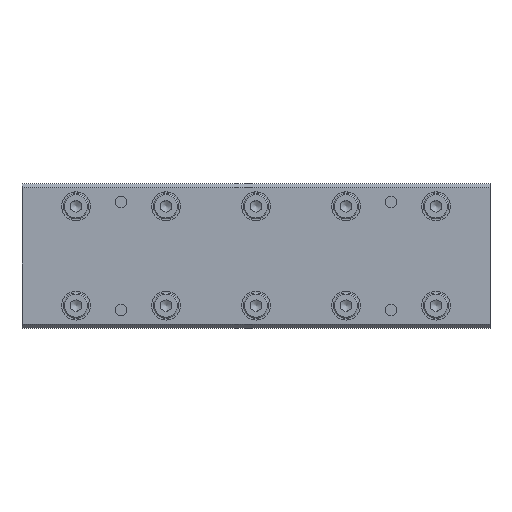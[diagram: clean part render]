
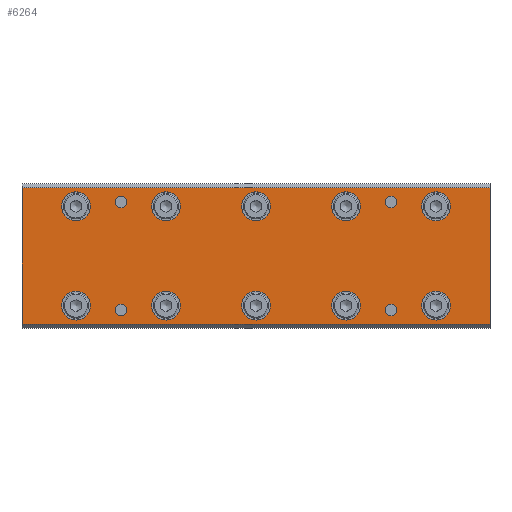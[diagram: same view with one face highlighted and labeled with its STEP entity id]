
A CAD part, top view. The second image highlights one B-rep face of the part: STEP entity #6264.
In plain terms, the highlighted planar face has unit normal (0, 0, 1).
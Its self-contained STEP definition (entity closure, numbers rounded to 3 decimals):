
#5098=CARTESIAN_POINT('',(130.0,19.0,10.));
#5099=VERTEX_POINT('',#5098);
#5106=CARTESIAN_POINT('',(130.0,-19.0,10.));
#5107=VERTEX_POINT('',#5106);
#5108=CARTESIAN_POINT('',(130.0,-19.0,10.));
#5109=DIRECTION('',(0.0,1.0,0.0));
#5110=VECTOR('',#5109,38.0);
#5111=LINE('',#5108,#5110);
#5112=EDGE_CURVE('',#5107,#5099,#5111,.T.);
#5251=CARTESIAN_POINT('',(19.,-13.8,10.));
#5252=VERTEX_POINT('',#5251);
#5253=CARTESIAN_POINT('',(15.,-13.8,10.));
#5254=DIRECTION('',(0.0,0.0,-1.0));
#5255=DIRECTION('',(1.0,0.0,0.0));
#5256=AXIS2_PLACEMENT_3D('',#5253,#5254,#5255);
#5257=CIRCLE('',#5256,4.0);
#5258=EDGE_CURVE('',#5252,#5252,#5257,.T.);
#5320=CARTESIAN_POINT('',(19.0,13.8,10.));
#5321=VERTEX_POINT('',#5320);
#5322=CARTESIAN_POINT('',(15.0,13.8,10.));
#5323=DIRECTION('',(0.0,0.0,-1.0));
#5324=DIRECTION('',(1.0,0.0,0.0));
#5325=AXIS2_PLACEMENT_3D('',#5322,#5323,#5324);
#5326=CIRCLE('',#5325,4.0);
#5327=EDGE_CURVE('',#5321,#5321,#5326,.T.);
#5401=CARTESIAN_POINT('',(44.0,-13.8,10.));
#5402=VERTEX_POINT('',#5401);
#5403=CARTESIAN_POINT('',(40.,-13.8,10.));
#5404=DIRECTION('',(0.0,0.0,-1.0));
#5405=DIRECTION('',(1.0,0.0,0.0));
#5406=AXIS2_PLACEMENT_3D('',#5403,#5404,#5405);
#5407=CIRCLE('',#5406,4.0);
#5408=EDGE_CURVE('',#5402,#5402,#5407,.T.);
#5442=CARTESIAN_POINT('',(44.0,13.8,10.));
#5443=VERTEX_POINT('',#5442);
#5444=CARTESIAN_POINT('',(40.0,13.8,10.));
#5445=DIRECTION('',(0.0,0.0,-1.0));
#5446=DIRECTION('',(1.0,0.0,0.0));
#5447=AXIS2_PLACEMENT_3D('',#5444,#5445,#5446);
#5448=CIRCLE('',#5447,4.0);
#5449=EDGE_CURVE('',#5443,#5443,#5448,.T.);
#5523=CARTESIAN_POINT('',(69.0,-13.8,10.));
#5524=VERTEX_POINT('',#5523);
#5525=CARTESIAN_POINT('',(65.,-13.8,10.));
#5526=DIRECTION('',(0.0,0.0,-1.0));
#5527=DIRECTION('',(1.0,0.0,0.0));
#5528=AXIS2_PLACEMENT_3D('',#5525,#5526,#5527);
#5529=CIRCLE('',#5528,4.0);
#5530=EDGE_CURVE('',#5524,#5524,#5529,.T.);
#5564=CARTESIAN_POINT('',(69.0,13.8,10.));
#5565=VERTEX_POINT('',#5564);
#5566=CARTESIAN_POINT('',(65.0,13.8,10.));
#5567=DIRECTION('',(0.0,0.0,-1.0));
#5568=DIRECTION('',(1.0,0.0,0.0));
#5569=AXIS2_PLACEMENT_3D('',#5566,#5567,#5568);
#5570=CIRCLE('',#5569,4.0);
#5571=EDGE_CURVE('',#5565,#5565,#5570,.T.);
#5645=CARTESIAN_POINT('',(94.0,-13.8,10.));
#5646=VERTEX_POINT('',#5645);
#5647=CARTESIAN_POINT('',(90.0,-13.8,10.));
#5648=DIRECTION('',(0.0,0.0,-1.0));
#5649=DIRECTION('',(1.0,0.0,0.0));
#5650=AXIS2_PLACEMENT_3D('',#5647,#5648,#5649);
#5651=CIRCLE('',#5650,4.0);
#5652=EDGE_CURVE('',#5646,#5646,#5651,.T.);
#5686=CARTESIAN_POINT('',(94.0,13.8,10.));
#5687=VERTEX_POINT('',#5686);
#5688=CARTESIAN_POINT('',(90.0,13.8,10.));
#5689=DIRECTION('',(0.0,0.0,-1.0));
#5690=DIRECTION('',(1.0,0.0,0.0));
#5691=AXIS2_PLACEMENT_3D('',#5688,#5689,#5690);
#5692=CIRCLE('',#5691,4.0);
#5693=EDGE_CURVE('',#5687,#5687,#5692,.T.);
#5767=CARTESIAN_POINT('',(119.0,-13.8,10.));
#5768=VERTEX_POINT('',#5767);
#5769=CARTESIAN_POINT('',(115.0,-13.8,10.));
#5770=DIRECTION('',(0.0,0.0,-1.0));
#5771=DIRECTION('',(1.0,0.0,0.0));
#5772=AXIS2_PLACEMENT_3D('',#5769,#5770,#5771);
#5773=CIRCLE('',#5772,4.0);
#5774=EDGE_CURVE('',#5768,#5768,#5773,.T.);
#5808=CARTESIAN_POINT('',(119.0,13.8,10.));
#5809=VERTEX_POINT('',#5808);
#5810=CARTESIAN_POINT('',(115.0,13.8,10.));
#5811=DIRECTION('',(0.0,0.0,-1.0));
#5812=DIRECTION('',(1.0,0.0,0.0));
#5813=AXIS2_PLACEMENT_3D('',#5810,#5811,#5812);
#5814=CIRCLE('',#5813,4.0);
#5815=EDGE_CURVE('',#5809,#5809,#5814,.T.);
#5880=CARTESIAN_POINT('',(29.121,-15.,10.));
#5881=VERTEX_POINT('',#5880);
#5882=CARTESIAN_POINT('',(27.5,-15.,10.));
#5883=DIRECTION('',(0.0,0.0,-1.0));
#5884=DIRECTION('',(1.0,0.0,0.0));
#5885=AXIS2_PLACEMENT_3D('',#5882,#5883,#5884);
#5886=CIRCLE('',#5885,1.621);
#5887=EDGE_CURVE('',#5881,#5881,#5886,.T.);
#5929=CARTESIAN_POINT('',(29.121,15.,10.));
#5930=VERTEX_POINT('',#5929);
#5931=CARTESIAN_POINT('',(27.5,15.,10.));
#5932=DIRECTION('',(0.0,0.0,-1.0));
#5933=DIRECTION('',(1.0,0.0,0.0));
#5934=AXIS2_PLACEMENT_3D('',#5931,#5932,#5933);
#5935=CIRCLE('',#5934,1.621);
#5936=EDGE_CURVE('',#5930,#5930,#5935,.T.);
#5978=CARTESIAN_POINT('',(104.121,-15.,10.));
#5979=VERTEX_POINT('',#5978);
#5980=CARTESIAN_POINT('',(102.5,-15.,10.));
#5981=DIRECTION('',(0.0,0.0,-1.0));
#5982=DIRECTION('',(1.0,0.0,0.0));
#5983=AXIS2_PLACEMENT_3D('',#5980,#5981,#5982);
#5984=CIRCLE('',#5983,1.621);
#5985=EDGE_CURVE('',#5979,#5979,#5984,.T.);
#6027=CARTESIAN_POINT('',(104.121,15.,10.));
#6028=VERTEX_POINT('',#6027);
#6029=CARTESIAN_POINT('',(102.5,15.,10.));
#6030=DIRECTION('',(0.0,0.0,-1.0));
#6031=DIRECTION('',(1.0,0.0,0.0));
#6032=AXIS2_PLACEMENT_3D('',#6029,#6030,#6031);
#6033=CIRCLE('',#6032,1.621);
#6034=EDGE_CURVE('',#6028,#6028,#6033,.T.);
#6182=CARTESIAN_POINT('',(0.0,19.0,10.));
#6183=VERTEX_POINT('',#6182);
#6190=CARTESIAN_POINT('',(0.0,19.0,10.));
#6191=DIRECTION('',(1.0,0.0,0.0));
#6192=VECTOR('',#6191,130.0);
#6193=LINE('',#6190,#6192);
#6194=EDGE_CURVE('',#6183,#5099,#6193,.T.);
#6199=CARTESIAN_POINT('',(0.0,-20.0,10.));
#6200=DIRECTION('',(0.0,0.0,1.0));
#6201=DIRECTION('',(1.0,0.0,0.0));
#6202=AXIS2_PLACEMENT_3D('',#6199,#6200,#6201);
#6203=PLANE('',#6202);
#6204=CARTESIAN_POINT('',(0.0,-19.0,10.));
#6205=VERTEX_POINT('',#6204);
#6206=CARTESIAN_POINT('',(130.0,-19.0,10.));
#6207=DIRECTION('',(-1.0,0.0,0.0));
#6208=VECTOR('',#6207,130.0);
#6209=LINE('',#6206,#6208);
#6210=EDGE_CURVE('',#5107,#6205,#6209,.T.);
#6211=ORIENTED_EDGE('',*,*,#6210,.F.);
#6212=ORIENTED_EDGE('',*,*,#5112,.T.);
#6213=ORIENTED_EDGE('',*,*,#6194,.F.);
#6214=CARTESIAN_POINT('',(0.0,19.0,10.));
#6215=DIRECTION('',(0.0,-1.0,0.0));
#6216=VECTOR('',#6215,38.0);
#6217=LINE('',#6214,#6216);
#6218=EDGE_CURVE('',#6183,#6205,#6217,.T.);
#6219=ORIENTED_EDGE('',*,*,#6218,.T.);
#6220=EDGE_LOOP('',(#6211,#6212,#6213,#6219));
#6221=FACE_OUTER_BOUND('',#6220,.T.);
#6222=ORIENTED_EDGE('',*,*,#6034,.T.);
#6223=EDGE_LOOP('',(#6222));
#6224=FACE_BOUND('',#6223,.T.);
#6225=ORIENTED_EDGE('',*,*,#5985,.T.);
#6226=EDGE_LOOP('',(#6225));
#6227=FACE_BOUND('',#6226,.T.);
#6228=ORIENTED_EDGE('',*,*,#5936,.T.);
#6229=EDGE_LOOP('',(#6228));
#6230=FACE_BOUND('',#6229,.T.);
#6231=ORIENTED_EDGE('',*,*,#5887,.T.);
#6232=EDGE_LOOP('',(#6231));
#6233=FACE_BOUND('',#6232,.T.);
#6234=ORIENTED_EDGE('',*,*,#5815,.T.);
#6235=EDGE_LOOP('',(#6234));
#6236=FACE_BOUND('',#6235,.T.);
#6237=ORIENTED_EDGE('',*,*,#5774,.T.);
#6238=EDGE_LOOP('',(#6237));
#6239=FACE_BOUND('',#6238,.T.);
#6240=ORIENTED_EDGE('',*,*,#5693,.T.);
#6241=EDGE_LOOP('',(#6240));
#6242=FACE_BOUND('',#6241,.T.);
#6243=ORIENTED_EDGE('',*,*,#5652,.T.);
#6244=EDGE_LOOP('',(#6243));
#6245=FACE_BOUND('',#6244,.T.);
#6246=ORIENTED_EDGE('',*,*,#5571,.T.);
#6247=EDGE_LOOP('',(#6246));
#6248=FACE_BOUND('',#6247,.T.);
#6249=ORIENTED_EDGE('',*,*,#5530,.T.);
#6250=EDGE_LOOP('',(#6249));
#6251=FACE_BOUND('',#6250,.T.);
#6252=ORIENTED_EDGE('',*,*,#5449,.T.);
#6253=EDGE_LOOP('',(#6252));
#6254=FACE_BOUND('',#6253,.T.);
#6255=ORIENTED_EDGE('',*,*,#5408,.T.);
#6256=EDGE_LOOP('',(#6255));
#6257=FACE_BOUND('',#6256,.T.);
#6258=ORIENTED_EDGE('',*,*,#5327,.T.);
#6259=EDGE_LOOP('',(#6258));
#6260=FACE_BOUND('',#6259,.T.);
#6261=ORIENTED_EDGE('',*,*,#5258,.T.);
#6262=EDGE_LOOP('',(#6261));
#6263=FACE_BOUND('',#6262,.T.);
#6264=ADVANCED_FACE('',(#6221,#6224,#6227,#6230,#6233,#6236,#6239,#6242,#6245,#6248,#6251,#6254,#6257,#6260,#6263),#6203,.T.);
